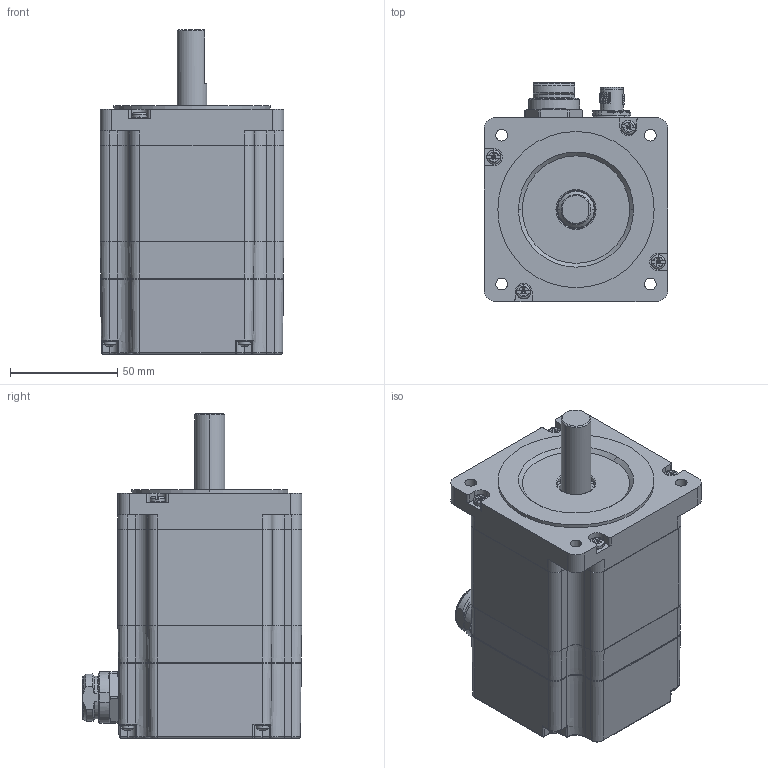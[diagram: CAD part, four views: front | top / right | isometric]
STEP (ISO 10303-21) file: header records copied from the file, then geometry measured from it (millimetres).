
FILE_DESCRIPTION (( 'STEP AP214' ), '1' );
FILE_NAME ('M86SH80-TM1611S05C.STEP', '2025-05-24T08:45:14', ( '' ), ( '' ), 'SwSTEP 2.0', 'SolidWorks 2019', '' );
FILE_SCHEMA (( 'AUTOMOTIVE_DESIGN' ));
Length unit declared in the file: millimetre
Products named in the file (1): M86SH80-TM1611S05C
Bounding box: 85.9 x 102.59 x 151.5 mm (x, y, z)
Volume: 437218.5 mm3; surface area: 165850.4 mm2
Topology: 32 solids, 32 shells, 2270 faces, 5818 edges, 3735 vertices
Faces by surface type: plane 1097, cylinder 497, bspline 323, cone 221, torus 116, sphere 16
Entity records: 110285 total; most frequent: CARTESIAN_POINT 31043, ORIENTED_EDGE 11558, DIRECTION 10565, EDGE_CURVE 5779, VERTEX_POINT 3735, AXIS2_PLACEMENT_3D 3687, LINE 3191, VECTOR 3191
